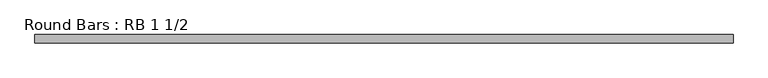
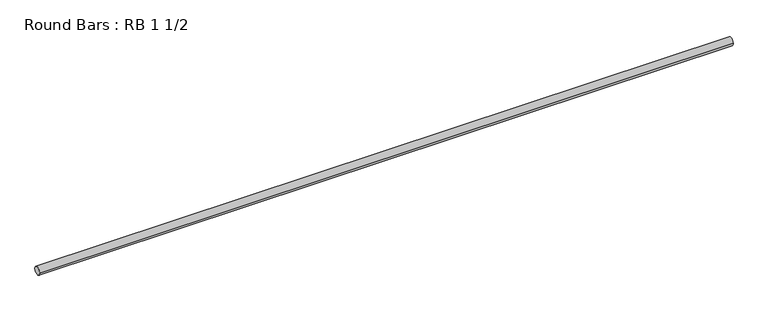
"""IFC4 building model written with IfcOpenShell, lengths in millimetres: member geometry, Round Bars : RB 1 1/2."""

from ifc_helpers import new_model, si_unit, point, frame, origin, origin_2d, place, context, project, spatial, circle_curve, trimmed, segment, composite_curve, outline, extrude, source, transform, mapped, element, save


def round_bars_rb_1_1_2_33a096da(model_context):
    return source(origin(), model_context, "Body", "SweptSolid", [
        extrude(outline(composite_curve([segment(trimmed(circle_curve(origin_2d(), 19.05), [point((19.05, 0.0))], [point((-19.05, 0.0))], False, "CARTESIAN"), True, "CONTINUOUS"), segment(trimmed(circle_curve(origin_2d(), 19.05), [point((-19.05, 0.0))], [point((19.05, 0.0))], False, "CARTESIAN"), True, "CONTINUOUS")], self_intersect=False)), frame((-1618.0572552, 0.0, 0.0), z_axis=(1.0, 0.0, 0.0), x_axis=(0.0, 1.0, 0.0)), (0.0, 0.0, 1.0), 3236.1145105),
    ])


if __name__ == "__main__":
    model = new_model("IFC4")
    model_context = context("Model", 3, world=origin())
    ifc_project = project(units=[si_unit("LENGTHUNIT", "METRE", prefix="MILLI")], contexts=[model_context])
    site = spatial("IfcSite", under=ifc_project)
    building = spatial("IfcBuilding", under=site)
    placement = place(None, origin())
    round_bars_rb_1_1_2_shape = round_bars_rb_1_1_2_33a096da(model_context)
    element("IfcMember", 1, ObjectType="Round Bars : RB 1 1/2", at=placement, inside=building, context=model_context, shape_type="MappedRepresentation", body=[
        mapped(round_bars_rb_1_1_2_shape, transform((0.0, 0.0, 0.0), x_axis=(1.0, 0.0, 0.0), y_axis=(0.0, 1.0, 0.0), z_axis=(0.0, 0.0, 1.0))),
    ])
    save(model, "model.ifc")
